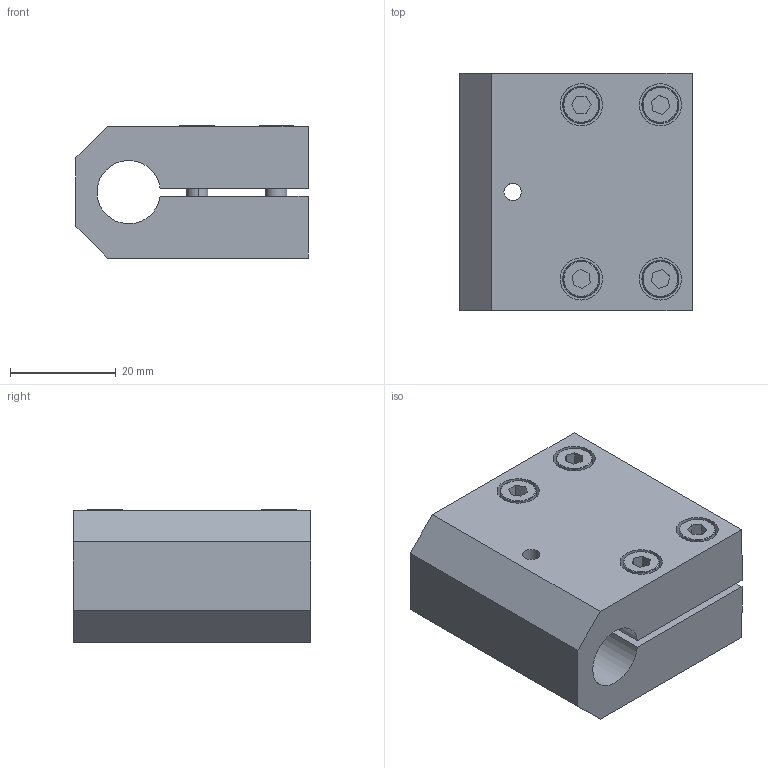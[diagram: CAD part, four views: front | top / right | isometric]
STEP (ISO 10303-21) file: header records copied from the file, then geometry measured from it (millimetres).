
FILE_DESCRIPTION (( 'STEP AP214' ), '1' );
FILE_NAME ('SMBF1-1220T.STEP', '2022-12-28T06:58:12', ( 'Windows User' ), ( 'P R C' ), 'SwSTEP 2.0', 'SolidWorks 2018', '' );
FILE_SCHEMA (( 'AUTOMOTIVE_DESIGN' ));
Length unit declared in the file: millimetre
Products named in the file (4): PTS-M4; PTC-M4L18; SMBF1-1220; SMBF1-1220T
Assembly tree (9 placements, depth 2):
  SMBF1-1220T
    SMBF1-1220
    PTC-M4L18  x4
    PTS-M4  x4
Bounding box: 44 x 45 x 25.05 mm (x, y, z)
Volume: 33053.5 mm3; surface area: 15512.9 mm2
Topology: 9 solids, 9 shells, 785 faces, 2265 edges, 1502 vertices
Faces by surface type: plane 697, cylinder 64, cone 24
Entity records: 8129 total; most frequent: CARTESIAN_POINT 1456, DIRECTION 1391, ORIENTED_EDGE 1326, EDGE_CURVE 663, AXIS2_PLACEMENT_3D 487, VERTEX_POINT 440, LINE 417, VECTOR 417
